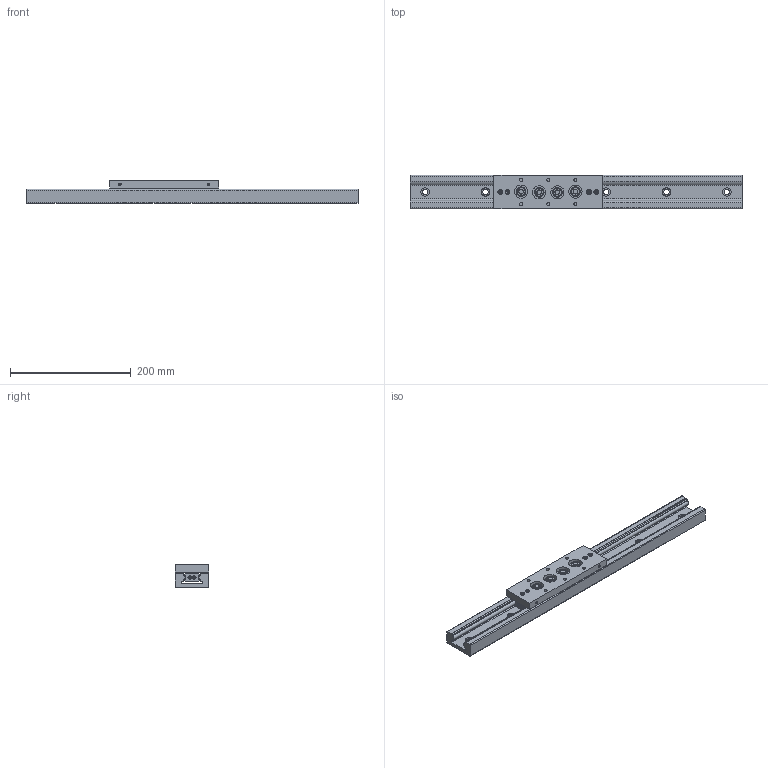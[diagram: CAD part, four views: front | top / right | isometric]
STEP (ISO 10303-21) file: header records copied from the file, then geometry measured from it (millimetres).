
FILE_DESCRIPTION((''),'2;1');
FILE_NAME('C:\Documents and Settings\土屋\My Documents\土屋移動用フォルダ\製品 (図面3D用)\お客様用\LSIJ5538.stp','2019-04-16T13:26:44',('y'),(''),'Autodesk Inventor 11','Autodesk Inventor 11','');
FILE_SCHEMA(('AUTOMOTIVE_DESIGN { 1 0 10303 214 1 1 1 1 }'));
Length unit declared in the file: millimetre
Products named in the file (3): LSIJ5538; LSI5538レール; LSIJ5538キャリッジ(1)
Assembly tree (2 placements, depth 2):
  LSIJ5538
    LSI5538レール
    LSIJ5538キャリッジ(1)
Bounding box: 550 x 55 x 38 mm (x, y, z)
Volume: 596664.8 mm3; surface area: 157364.1 mm2
Topology: 8 solids, 8 shells, 507 faces, 1237 edges, 804 vertices
Faces by surface type: plane 257, bspline 136, cylinder 58, cone 56
Full cylindrical faces by diameter (mm): 4 x2, 7 x2, 8 x2, 12.3 x4, 16 x4, 22 x4, 24 x8
Entity records: 15177 total; most frequent: CARTESIAN_POINT 4191, ORIENTED_EDGE 2290, DIRECTION 1993, EDGE_CURVE 1145, VERTEX_POINT 790, VECTOR 761, LINE 761, EDGE_LOOP 667
